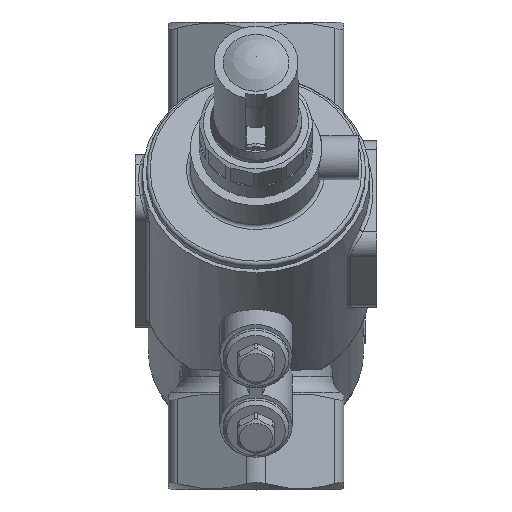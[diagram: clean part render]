
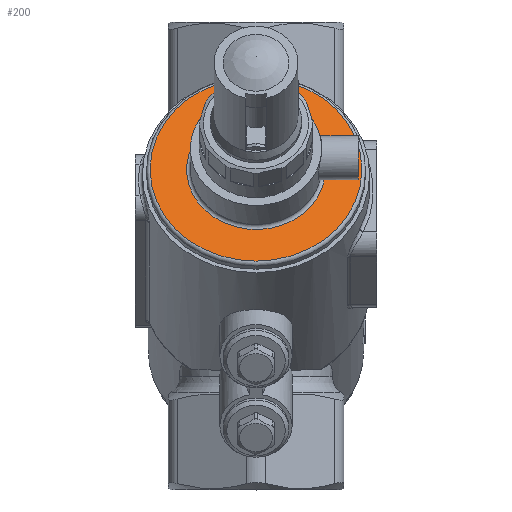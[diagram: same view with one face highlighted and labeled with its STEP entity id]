
A CAD part, top view. The second image highlights one B-rep face of the part: STEP entity #200.
In plain terms, the highlighted planar face has unit normal (0, 0.5, 0.866).
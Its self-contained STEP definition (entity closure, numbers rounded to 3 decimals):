
#200=ADVANCED_FACE('',(#2689,#2691),#2693,.T.);
#2689=FACE_BOUND('',#2690,.T.);
#2690=EDGE_LOOP('',(#5257));
#2691=FACE_BOUND('',#2692,.T.);
#2692=EDGE_LOOP('',(#5258,#5259));
#2693=PLANE('',#2694);
#2694=AXIS2_PLACEMENT_3D('',#2695,#2696,#2697);
#2695=CARTESIAN_POINT('',(0.,31.6,54.733));
#2696=DIRECTION('',(0.,0.5,0.866));
#2697=DIRECTION('',(0.,-0.866,0.5));
#5257=ORIENTED_EDGE('',*,*,#7388,.T.);
#5258=ORIENTED_EDGE('',*,*,#7416,.F.);
#5259=ORIENTED_EDGE('',*,*,#7417,.F.);
#7388=EDGE_CURVE('',#8730,#8730,#8731,.T.);
#7416=EDGE_CURVE('',#8777,#8778,#8779,.T.);
#7417=EDGE_CURVE('',#8778,#8777,#8780,.T.);
#8730=VERTEX_POINT('',#15991);
#8731=CIRCLE('',#15992,29.);
#8777=VERTEX_POINT('',#16105);
#8778=VERTEX_POINT('',#16106);
#8779=CIRCLE('',#16107,19.);
#8780=B_SPLINE_CURVE_WITH_KNOTS('',3,
(#16111,#16112,#16113,#16114,#16115,#16116,#16117,#16118,#16119,#16120,#16121,#16122,
#16123,#16124,#16125,#16126,#16127,#16128,#16129,#16130,#16131,#16132),
.UNSPECIFIED.,.F.,.F.,
(4,2,2,2,2,2,2,2,2,2,4),
(0.,0.096,0.194,0.267,0.38,0.496,
0.611,0.727,0.839,0.919,1.),
.UNSPECIFIED.);
#15991=CARTESIAN_POINT('',(0.,6.485,69.233));
#15992=AXIS2_PLACEMENT_3D('',#15993,#15994,#15995);
#15993=CARTESIAN_POINT('',(0.,31.6,54.733));
#15994=DIRECTION('',(0.,0.5,0.866));
#15995=DIRECTION('',(0.,-0.866,0.5));
#16105=CARTESIAN_POINT('',(18.774,34.129,53.273));
#16106=CARTESIAN_POINT('',(18.774,29.071,56.193));
#16107=AXIS2_PLACEMENT_3D('',#16108,#16109,#16110);
#16108=CARTESIAN_POINT('',(0.,31.6,54.733));
#16109=DIRECTION('',(0.,0.5,0.866));
#16110=DIRECTION('',(0.988,0.133,-0.077));
#16111=CARTESIAN_POINT('',(18.774,29.071,56.193));
#16112=CARTESIAN_POINT('',(18.794,29.222,56.106));
#16113=CARTESIAN_POINT('',(18.814,29.372,56.019));
#16114=CARTESIAN_POINT('',(18.83,29.688,55.836));
#16115=CARTESIAN_POINT('',(18.826,29.854,55.741));
#16116=CARTESIAN_POINT('',(18.816,30.142,55.574));
#16117=CARTESIAN_POINT('',(18.807,30.267,55.503));
#16118=CARTESIAN_POINT('',(18.787,30.585,55.319));
#16119=CARTESIAN_POINT('',(18.768,30.781,55.206));
#16120=CARTESIAN_POINT('',(18.748,31.176,54.977));
#16121=CARTESIAN_POINT('',(18.738,31.377,54.861));
#16122=CARTESIAN_POINT('',(18.737,31.778,54.63));
#16123=CARTESIAN_POINT('',(18.745,31.979,54.514));
#16124=CARTESIAN_POINT('',(18.765,32.378,54.284));
#16125=CARTESIAN_POINT('',(18.785,32.579,54.168));
#16126=CARTESIAN_POINT('',(18.808,32.968,53.943));
#16127=CARTESIAN_POINT('',(18.823,33.159,53.833));
#16128=CARTESIAN_POINT('',(18.826,33.48,53.647));
#16129=CARTESIAN_POINT('',(18.827,33.614,53.57));
#16130=CARTESIAN_POINT('',(18.81,33.874,53.42));
#16131=CARTESIAN_POINT('',(18.792,34.002,53.346));
#16132=CARTESIAN_POINT('',(18.774,34.129,53.273));
